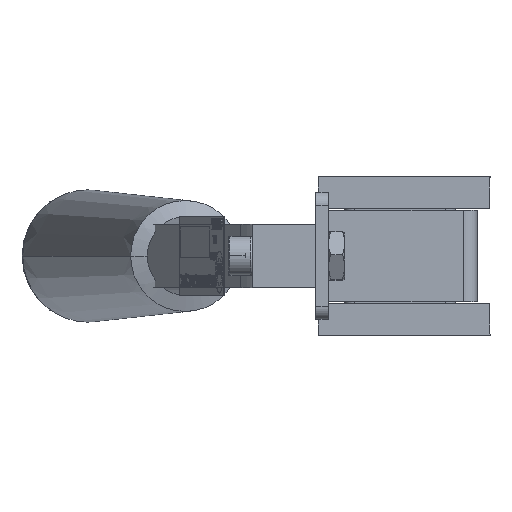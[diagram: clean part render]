
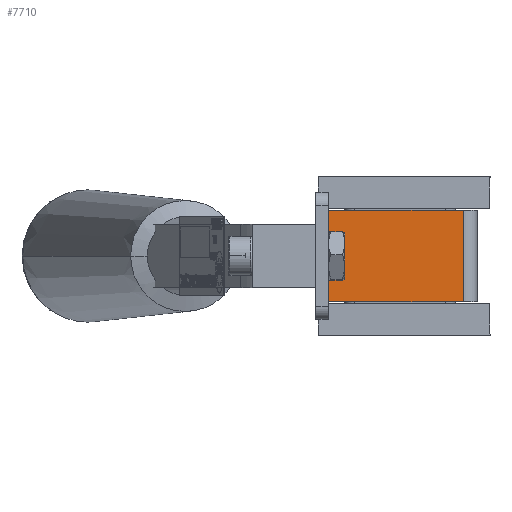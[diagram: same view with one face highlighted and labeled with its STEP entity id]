
A CAD part, left-side view. The second image highlights one B-rep face of the part: STEP entity #7710.
In plain terms, the highlighted planar face has unit normal (-1, 0, 0).
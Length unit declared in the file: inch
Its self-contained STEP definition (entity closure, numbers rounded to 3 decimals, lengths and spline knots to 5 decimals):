
#3418 = DIRECTION ( 'NONE',  ( 0., 0., -1. ) ) ;
#3607 = ORIENTED_EDGE ( 'NONE', *, *, #10516, .T. ) ;
#3783 = CARTESIAN_POINT ( 'NONE',  ( -4.31562, -1.725, -0.35937 ) ) ;
#3972 = VECTOR ( 'NONE', #3418, 39.37008 ) ;
#5795 = CARTESIAN_POINT ( 'NONE',  ( -4.31562, -1.725, 0.35938 ) ) ;
#7710 = ADVANCED_FACE ( 'NONE', ( #31667 ), #29060, .F. ) ;
#8751 = DIRECTION ( 'NONE',  ( 0., 1., 0. ) ) ;
#10516 = EDGE_CURVE ( 'NONE', #20266, #35223, #31209, .T. ) ;
#10763 = CARTESIAN_POINT ( 'NONE',  ( -4.31563, -0.6, 0.35938 ) ) ;
#11750 = CARTESIAN_POINT ( 'NONE',  ( -4.31562, -1.665, 0.35938 ) ) ;
#12346 = CARTESIAN_POINT ( 'NONE',  ( -4.31563, -0.6, -0.35937 ) ) ;
#12397 = VERTEX_POINT ( 'NONE', #29552 ) ;
#12618 = DIRECTION ( 'NONE',  ( 0., -1., 0. ) ) ;
#15104 = DIRECTION ( 'NONE',  ( 0., 0., -1. ) ) ;
#15380 = CARTESIAN_POINT ( 'NONE',  ( -4.31562, -1.665, 0.35938 ) ) ;
#16010 = EDGE_LOOP ( 'NONE', ( #25772, #3607, #17511, #27179 ) ) ;
#16858 = DIRECTION ( 'NONE',  ( 0., 1., 0. ) ) ;
#16998 = VECTOR ( 'NONE', #15104, 39.37008 ) ;
#17511 = ORIENTED_EDGE ( 'NONE', *, *, #30241, .T. ) ;
#20266 = VERTEX_POINT ( 'NONE', #15380 ) ;
#20634 = VERTEX_POINT ( 'NONE', #23149 ) ;
#21316 = VECTOR ( 'NONE', #12618, 39.37008 ) ;
#22463 = EDGE_CURVE ( 'NONE', #20266, #12397, #29505, .T. ) ;
#23149 = CARTESIAN_POINT ( 'NONE',  ( -4.31563, -0.6, -0.35937 ) ) ;
#25192 = CARTESIAN_POINT ( 'NONE',  ( -4.31563, -0.6, 0.35938 ) ) ;
#25772 = ORIENTED_EDGE ( 'NONE', *, *, #22463, .F. ) ;
#27164 = LINE ( 'NONE', #3783, #21316 ) ;
#27179 = ORIENTED_EDGE ( 'NONE', *, *, #33876, .T. ) ;
#28913 = AXIS2_PLACEMENT_3D ( 'NONE', #5795, #34309, #8751 ) ;
#29060 = PLANE ( 'NONE',  #28913 ) ;
#29158 = LINE ( 'NONE', #12346, #16998 ) ;
#29505 = LINE ( 'NONE', #11750, #3972 ) ;
#29552 = CARTESIAN_POINT ( 'NONE',  ( -4.31562, -1.665, -0.35937 ) ) ;
#30241 = EDGE_CURVE ( 'NONE', #35223, #20634, #29158, .T. ) ;
#31209 = LINE ( 'NONE', #25192, #34332 ) ;
#31667 = FACE_OUTER_BOUND ( 'NONE', #16010, .T. ) ;
#33876 = EDGE_CURVE ( 'NONE', #20634, #12397, #27164, .T. ) ;
#34309 = DIRECTION ( 'NONE',  ( 1., 0., 0. ) ) ;
#34332 = VECTOR ( 'NONE', #16858, 39.37008 ) ;
#35223 = VERTEX_POINT ( 'NONE', #10763 ) ;
